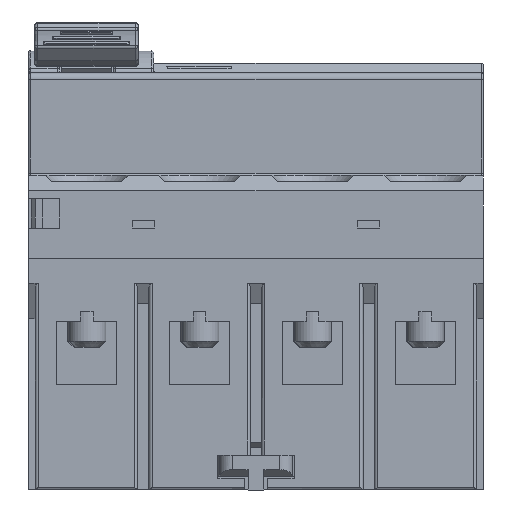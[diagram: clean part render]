
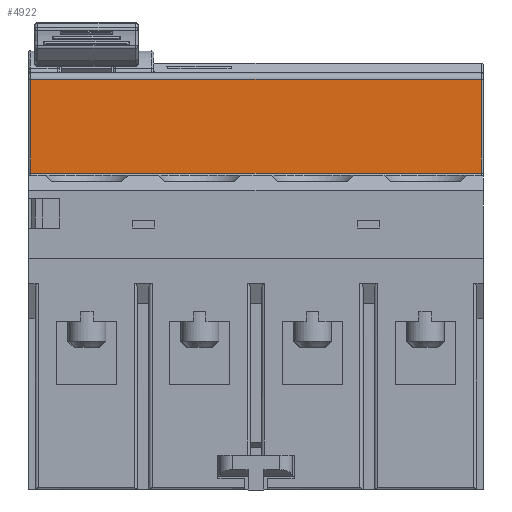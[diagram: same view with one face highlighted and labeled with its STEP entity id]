
A CAD part, front view. The second image highlights one B-rep face of the part: STEP entity #4922.
In plain terms, the highlighted planar face has unit normal (0, -1, 0).
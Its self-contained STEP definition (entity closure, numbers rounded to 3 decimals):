
#972 = CARTESIAN_POINT ( 'NONE',  ( -17.6, -22.5, 44.4 ) ) ;
#1650 = DIRECTION ( 'NONE',  ( -1., 0., 0. ) ) ;
#2028 = VECTOR ( 'NONE', #1650, 1000. ) ;
#2951 = DIRECTION ( 'NONE',  ( 0., 0., 1. ) ) ;
#3814 = VERTEX_POINT ( 'NONE', #972 ) ;
#4345 = CARTESIAN_POINT ( 'NONE',  ( 53.4, -22.5, 59.2 ) ) ;
#4922 = ADVANCED_FACE ( 'NONE', ( #10086 ), #15999, .T. ) ;
#10086 = FACE_OUTER_BOUND ( 'NONE', #28004, .T. ) ;
#10659 = VERTEX_POINT ( 'NONE', #24062 ) ;
#12256 = VECTOR ( 'NONE', #17150, 1000. ) ;
#13266 = DIRECTION ( 'NONE',  ( 0., 0., 1. ) ) ;
#13406 = DIRECTION ( 'NONE',  ( 0., -1., 0. ) ) ;
#14302 = VECTOR ( 'NONE', #2951, 1000. ) ;
#14979 = ORIENTED_EDGE ( 'NONE', *, *, #16845, .T. ) ;
#15438 = VECTOR ( 'NONE', #21178, 1000. ) ;
#15999 = PLANE ( 'NONE',  #29562 ) ;
#16845 = EDGE_CURVE ( 'NONE', #10659, #28371, #38973, .T. ) ;
#17150 = DIRECTION ( 'NONE',  ( 1., 0., 0. ) ) ;
#19721 = CARTESIAN_POINT ( 'NONE',  ( 53.4, -22.5, 59.2 ) ) ;
#21178 = DIRECTION ( 'NONE',  ( 0., 0., -1. ) ) ;
#21527 = EDGE_CURVE ( 'NONE', #26254, #3814, #40045, .T. ) ;
#23922 = ORIENTED_EDGE ( 'NONE', *, *, #24934, .T. ) ;
#23999 = LINE ( 'NONE', #38717, #2028 ) ;
#24062 = CARTESIAN_POINT ( 'NONE',  ( 53.4, -22.5, 44.4 ) ) ;
#24934 = EDGE_CURVE ( 'NONE', #28371, #26254, #23999, .T. ) ;
#26254 = VERTEX_POINT ( 'NONE', #28287 ) ;
#26428 = CARTESIAN_POINT ( 'NONE',  ( 53.7, -22.5, 44.4 ) ) ;
#27888 = ORIENTED_EDGE ( 'NONE', *, *, #35770, .T. ) ;
#28004 = EDGE_LOOP ( 'NONE', ( #23922, #38570, #27888, #14979 ) ) ;
#28235 = CARTESIAN_POINT ( 'NONE',  ( 53.7, -22.5, 56.2 ) ) ;
#28287 = CARTESIAN_POINT ( 'NONE',  ( -17.6, -22.5, 59.2 ) ) ;
#28371 = VERTEX_POINT ( 'NONE', #19721 ) ;
#29562 = AXIS2_PLACEMENT_3D ( 'NONE', #28235, #13406, #13266 ) ;
#29768 = LINE ( 'NONE', #26428, #12256 ) ;
#35770 = EDGE_CURVE ( 'NONE', #3814, #10659, #29768, .T. ) ;
#36669 = CARTESIAN_POINT ( 'NONE',  ( -17.6, -22.5, 56.2 ) ) ;
#38570 = ORIENTED_EDGE ( 'NONE', *, *, #21527, .T. ) ;
#38717 = CARTESIAN_POINT ( 'NONE',  ( 53.7, -22.5, 59.2 ) ) ;
#38973 = LINE ( 'NONE', #4345, #14302 ) ;
#40045 = LINE ( 'NONE', #36669, #15438 ) ;
